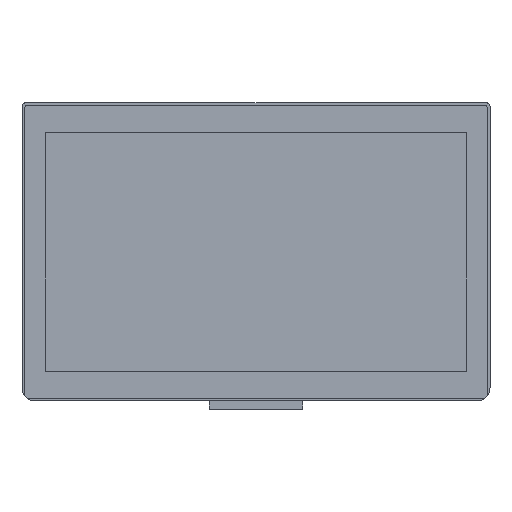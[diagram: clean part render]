
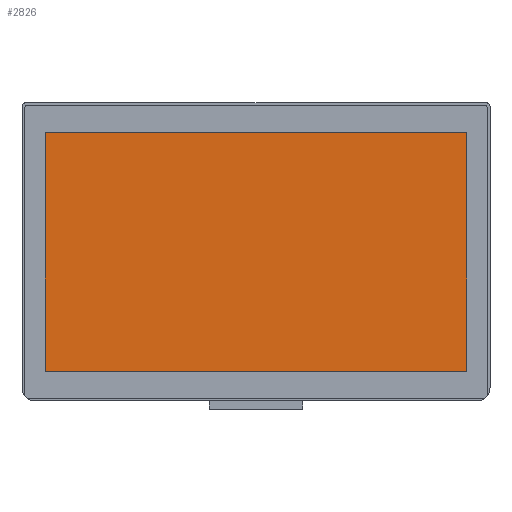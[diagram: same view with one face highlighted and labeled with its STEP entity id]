
A CAD part, front view. The second image highlights one B-rep face of the part: STEP entity #2826.
In plain terms, the highlighted planar face has unit normal (0, -1, 0).
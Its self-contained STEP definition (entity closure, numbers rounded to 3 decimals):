
#1922 = PLANE('',#1923);
#1923 = AXIS2_PLACEMENT_3D('',#1924,#1925,#1926);
#1924 = CARTESIAN_POINT('',(-47.52,-49.6,238.43));
#1925 = DIRECTION('',(0.,0.,1.));
#1926 = DIRECTION('',(1.,0.,-0.));
#1948 = PLANE('',#1949);
#1949 = AXIS2_PLACEMENT_3D('',#1950,#1951,#1952);
#1950 = CARTESIAN_POINT('',(-47.52,-49.6,184.57));
#1951 = DIRECTION('',(1.,0.,-0.));
#1952 = DIRECTION('',(0.,0.,1.));
#1974 = PLANE('',#1975);
#1975 = AXIS2_PLACEMENT_3D('',#1976,#1977,#1978);
#1976 = CARTESIAN_POINT('',(-47.52,-49.6,184.57));
#1977 = DIRECTION('',(0.,0.,1.));
#1978 = DIRECTION('',(1.,0.,-0.));
#1998 = PLANE('',#1999);
#1999 = AXIS2_PLACEMENT_3D('',#2000,#2001,#2002);
#2000 = CARTESIAN_POINT('',(47.52,-49.6,184.57));
#2001 = DIRECTION('',(1.,0.,-0.));
#2002 = DIRECTION('',(0.,0.,1.));
#2517 = VERTEX_POINT('',#2518);
#2518 = CARTESIAN_POINT('',(-47.52,-48.5,238.43));
#2541 = VERTEX_POINT('',#2542);
#2542 = CARTESIAN_POINT('',(47.52,-48.5,238.43));
#2563 = EDGE_CURVE('',#2517,#2541,#2564,.T.);
#2564 = SURFACE_CURVE('',#2565,(#2569,#2576),.PCURVE_S1.);
#2565 = LINE('',#2566,#2567);
#2566 = CARTESIAN_POINT('',(-47.52,-48.5,238.43));
#2567 = VECTOR('',#2568,1.);
#2568 = DIRECTION('',(1.,0.,-0.));
#2569 = PCURVE('',#1922,#2570);
#2570 = DEFINITIONAL_REPRESENTATION('',(#2571),#2575);
#2571 = LINE('',#2572,#2573);
#2572 = CARTESIAN_POINT('',(0.,1.1));
#2573 = VECTOR('',#2574,1.);
#2574 = DIRECTION('',(1.,0.));
#2575 = ( GEOMETRIC_REPRESENTATION_CONTEXT(2) 
PARAMETRIC_REPRESENTATION_CONTEXT() REPRESENTATION_CONTEXT('2D SPACE',''
  ) );
#2576 = PCURVE('',#2577,#2582);
#2577 = PLANE('',#2578);
#2578 = AXIS2_PLACEMENT_3D('',#2579,#2580,#2581);
#2579 = CARTESIAN_POINT('',(-47.52,-48.5,184.57));
#2580 = DIRECTION('',(-0.,1.,0.));
#2581 = DIRECTION('',(0.,0.,1.));
#2582 = DEFINITIONAL_REPRESENTATION('',(#2583),#2587);
#2583 = LINE('',#2584,#2585);
#2584 = CARTESIAN_POINT('',(53.86,0.));
#2585 = VECTOR('',#2586,1.);
#2586 = DIRECTION('',(0.,1.));
#2587 = ( GEOMETRIC_REPRESENTATION_CONTEXT(2) 
PARAMETRIC_REPRESENTATION_CONTEXT() REPRESENTATION_CONTEXT('2D SPACE',''
  ) );
#2595 = VERTEX_POINT('',#2596);
#2596 = CARTESIAN_POINT('',(47.52,-48.5,184.57));
#2617 = EDGE_CURVE('',#2595,#2541,#2618,.T.);
#2618 = SURFACE_CURVE('',#2619,(#2623,#2630),.PCURVE_S1.);
#2619 = LINE('',#2620,#2621);
#2620 = CARTESIAN_POINT('',(47.52,-48.5,184.57));
#2621 = VECTOR('',#2622,1.);
#2622 = DIRECTION('',(0.,0.,1.));
#2623 = PCURVE('',#1998,#2624);
#2624 = DEFINITIONAL_REPRESENTATION('',(#2625),#2629);
#2625 = LINE('',#2626,#2627);
#2626 = CARTESIAN_POINT('',(0.,-1.1));
#2627 = VECTOR('',#2628,1.);
#2628 = DIRECTION('',(1.,0.));
#2629 = ( GEOMETRIC_REPRESENTATION_CONTEXT(2) 
PARAMETRIC_REPRESENTATION_CONTEXT() REPRESENTATION_CONTEXT('2D SPACE',''
  ) );
#2630 = PCURVE('',#2577,#2631);
#2631 = DEFINITIONAL_REPRESENTATION('',(#2632),#2636);
#2632 = LINE('',#2633,#2634);
#2633 = CARTESIAN_POINT('',(0.,95.04));
#2634 = VECTOR('',#2635,1.);
#2635 = DIRECTION('',(1.,0.));
#2636 = ( GEOMETRIC_REPRESENTATION_CONTEXT(2) 
PARAMETRIC_REPRESENTATION_CONTEXT() REPRESENTATION_CONTEXT('2D SPACE',''
  ) );
#2642 = VERTEX_POINT('',#2643);
#2643 = CARTESIAN_POINT('',(-47.52,-48.5,184.57));
#2666 = EDGE_CURVE('',#2642,#2595,#2667,.T.);
#2667 = SURFACE_CURVE('',#2668,(#2672,#2679),.PCURVE_S1.);
#2668 = LINE('',#2669,#2670);
#2669 = CARTESIAN_POINT('',(-47.52,-48.5,184.57));
#2670 = VECTOR('',#2671,1.);
#2671 = DIRECTION('',(1.,0.,-0.));
#2672 = PCURVE('',#1974,#2673);
#2673 = DEFINITIONAL_REPRESENTATION('',(#2674),#2678);
#2674 = LINE('',#2675,#2676);
#2675 = CARTESIAN_POINT('',(0.,1.1));
#2676 = VECTOR('',#2677,1.);
#2677 = DIRECTION('',(1.,0.));
#2678 = ( GEOMETRIC_REPRESENTATION_CONTEXT(2) 
PARAMETRIC_REPRESENTATION_CONTEXT() REPRESENTATION_CONTEXT('2D SPACE',''
  ) );
#2679 = PCURVE('',#2577,#2680);
#2680 = DEFINITIONAL_REPRESENTATION('',(#2681),#2685);
#2681 = LINE('',#2682,#2683);
#2682 = CARTESIAN_POINT('',(0.,0.));
#2683 = VECTOR('',#2684,1.);
#2684 = DIRECTION('',(0.,1.));
#2685 = ( GEOMETRIC_REPRESENTATION_CONTEXT(2) 
PARAMETRIC_REPRESENTATION_CONTEXT() REPRESENTATION_CONTEXT('2D SPACE',''
  ) );
#2693 = EDGE_CURVE('',#2642,#2517,#2694,.T.);
#2694 = SURFACE_CURVE('',#2695,(#2699,#2706),.PCURVE_S1.);
#2695 = LINE('',#2696,#2697);
#2696 = CARTESIAN_POINT('',(-47.52,-48.5,184.57));
#2697 = VECTOR('',#2698,1.);
#2698 = DIRECTION('',(0.,0.,1.));
#2699 = PCURVE('',#1948,#2700);
#2700 = DEFINITIONAL_REPRESENTATION('',(#2701),#2705);
#2701 = LINE('',#2702,#2703);
#2702 = CARTESIAN_POINT('',(0.,-1.1));
#2703 = VECTOR('',#2704,1.);
#2704 = DIRECTION('',(1.,0.));
#2705 = ( GEOMETRIC_REPRESENTATION_CONTEXT(2) 
PARAMETRIC_REPRESENTATION_CONTEXT() REPRESENTATION_CONTEXT('2D SPACE',''
  ) );
#2706 = PCURVE('',#2577,#2707);
#2707 = DEFINITIONAL_REPRESENTATION('',(#2708),#2712);
#2708 = LINE('',#2709,#2710);
#2709 = CARTESIAN_POINT('',(0.,0.));
#2710 = VECTOR('',#2711,1.);
#2711 = DIRECTION('',(1.,0.));
#2712 = ( GEOMETRIC_REPRESENTATION_CONTEXT(2) 
PARAMETRIC_REPRESENTATION_CONTEXT() REPRESENTATION_CONTEXT('2D SPACE',''
  ) );
#2826 = ADVANCED_FACE('',(#2827),#2577,.F.);
#2827 = FACE_BOUND('',#2828,.F.);
#2828 = EDGE_LOOP('',(#2829,#2830,#2831,#2832));
#2829 = ORIENTED_EDGE('',*,*,#2666,.F.);
#2830 = ORIENTED_EDGE('',*,*,#2693,.T.);
#2831 = ORIENTED_EDGE('',*,*,#2563,.T.);
#2832 = ORIENTED_EDGE('',*,*,#2617,.F.);
